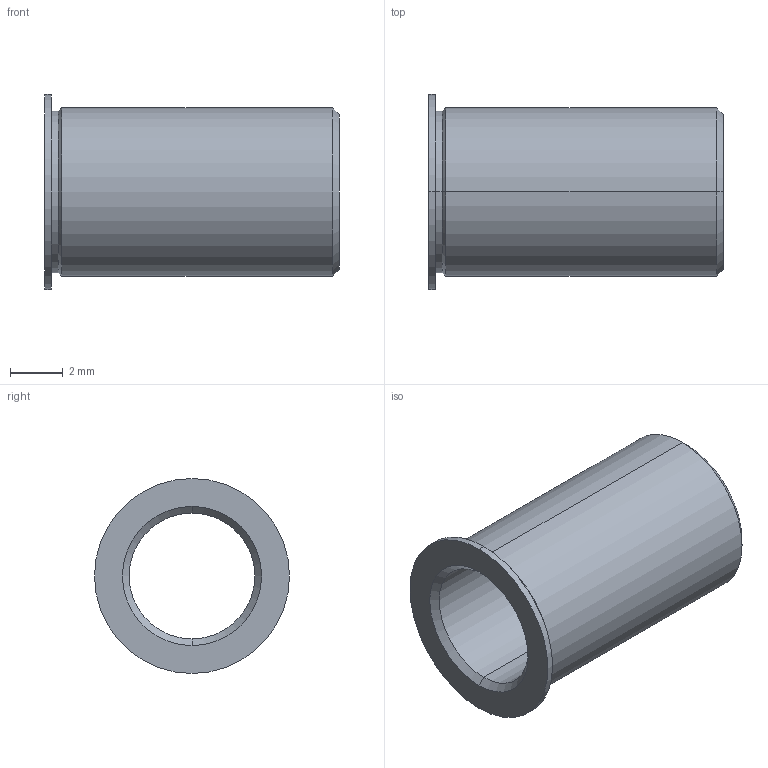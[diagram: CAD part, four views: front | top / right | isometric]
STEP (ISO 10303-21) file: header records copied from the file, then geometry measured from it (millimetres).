
FILE_DESCRIPTION (( 'STEP AP214' ), '1' );
FILE_NAME ('TB187-100-438.STEP', '2013-02-13T15:00:46', ( 'workpc' ), ( 'Microsoft' ), 'SwSTEP 2.0', 'SolidWorks 2013', '' );
FILE_SCHEMA (( 'AUTOMOTIVE_DESIGN' ));
Length unit declared in the file: inch
Products named in the file (1): TB187-100-438
Bounding box: 11.13 x 7.37 x 7.37 mm (x, y, z)
Volume: 156.9 mm3; surface area: 434.9 mm2
Topology: 1 solids, 1 shells, 19 faces, 38 edges, 22 vertices
Faces by surface type: cone 8, cylinder 8, plane 3
Entity records: 564 total; most frequent: DIRECTION 100, CARTESIAN_POINT 80, ORIENTED_EDGE 76, AXIS2_PLACEMENT_3D 42, EDGE_CURVE 38, CIRCLE 22, VERTEX_POINT 22, EDGE_LOOP 22
